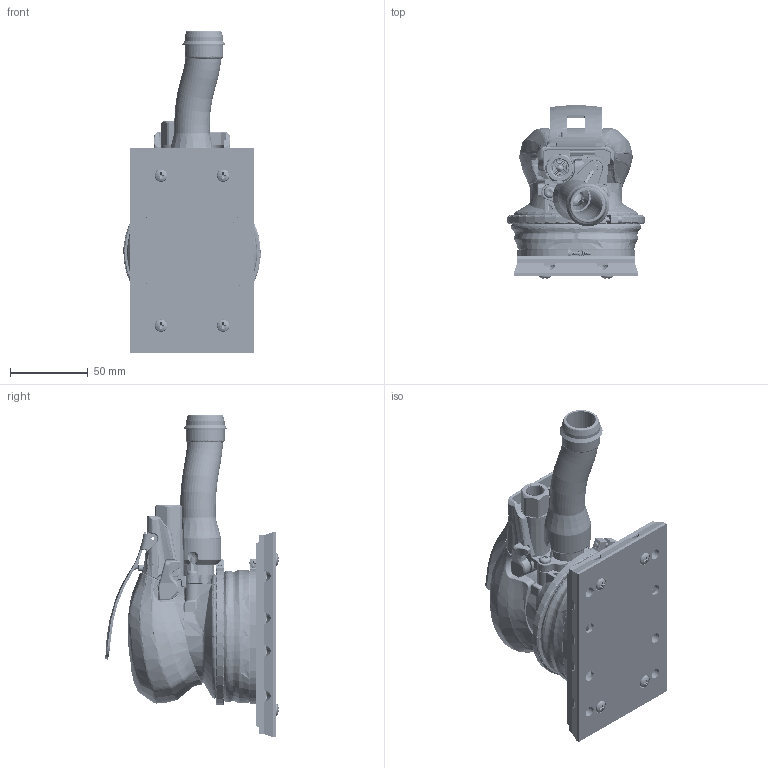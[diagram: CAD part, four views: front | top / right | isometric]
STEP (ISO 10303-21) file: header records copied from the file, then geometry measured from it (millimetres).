
FILE_DESCRIPTION((''),'2;1');
FILE_NAME('SXOAR1V_ASM','2009-06-02T',('sdanet'),(''),'PRO/ENGINEER BY PARAMETRIC TECHNOLOGY CORPORATION, 2008250','PRO/ENGINEER BY PARAMETRIC TECHNOLOGY CORPORATION, 2008250','');
FILE_SCHEMA(('AUTOMOTIVE_DESIGN_CC2 { 1 2 10303 214 -1 1 5 2 }'));
Length unit declared in the file: millimetre
Products named in the file (31): CARTER_MODELE_STL_AF12_1; BE17079_AF74_1; 6155652280_AF11_ASM_1_ASM; 6153031080_AF76_1; 6153211930_AF88_1; 6151550100_AF88_1; 6157900340_AF11_1; 6157460720_AF88_1; 6156810890_AF11_1; 6153211920_AF11_1; 6156371580_AF11_1; 6155651960_AF10_ASM_1_ASM; 6153501200_AF1_1; 6152630100_1; 6156160910_1; 6152630110_AF1_1; 6156100940_AF1_1; 6153963900_1; 6153964100_ASM_1_ASM; BE18414_AF0_1; BE18415_AF0_1; BE18413_AF0_1; 6153501210_ASM_1_ASM; 6156100630_1; 6153071490_AF4_1; 6156140780_1; 6156140780_AF4_1; 6153211910_AF4_1; 6153071510_AF4_1; PONCEUSE_SX_VENTURI_RECT_ASM_ASM; SXOAR1V_ASM
Assembly tree (33 placements, depth 5):
  SXOAR1V_ASM
    PONCEUSE_SX_VENTURI_RECT_ASM_ASM
      6155651960_AF10_ASM_1_ASM
        6155652280_AF11_ASM_1_ASM
          CARTER_MODELE_STL_AF12_1
          BE17079_AF74_1
        6153031080_AF76_1
        6153211930_AF88_1
        6151550100_AF88_1
        6157900340_AF11_1
        6157460720_AF88_1
        6156810890_AF11_1
        6153211920_AF11_1
        6156371580_AF11_1
      6153501200_AF1_1
      6152630100_1
      6156160910_1
      6152630110_AF1_1
      6156100940_AF1_1
      6153964100_ASM_1_ASM
        6153963900_1
      6153501210_ASM_1_ASM
        BE18414_AF0_1
        BE18415_AF0_1
        BE18413_AF0_1
      6156100630_1  x4
      6153071490_AF4_1
      6156140780_1
      6156140780_AF4_1
      6153211910_AF4_1
      6153071510_AF4_1
Bounding box: 88.29 x 111.68 x 207.44 mm (x, y, z)
Volume: 296073.4 mm3; surface area: 230961.2 mm2
Topology: 28 solids, 29 shells, 4334 faces, 11822 edges, 7476 vertices
Faces by surface type: cylinder 1522, plane 1047, bspline 838, torus 506, cone 278, sphere 90, extrusion 53
Entity records: 230768 total; most frequent: CARTESIAN_POINT 102648, ORIENTED_EDGE 22808, DIRECTION 18373, EDGE_CURVE 11406, AXIS2_PLACEMENT_3D 7330, VERTEX_POINT 7290, EDGE_LOOP 4464, FACE_OUTER_BOUND 4187
